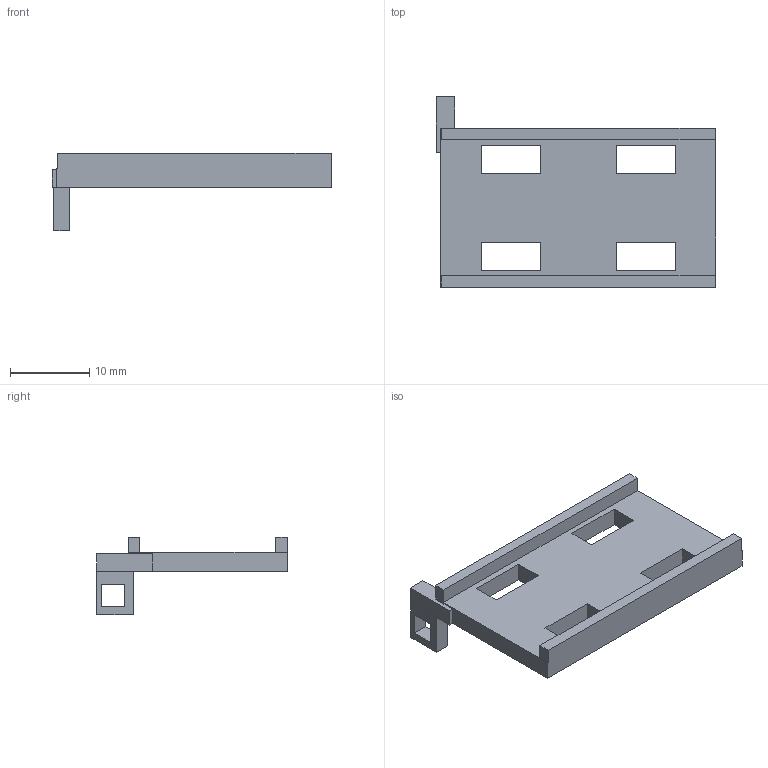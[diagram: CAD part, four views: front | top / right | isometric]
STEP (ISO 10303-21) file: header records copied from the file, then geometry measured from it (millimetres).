
FILE_DESCRIPTION(('Open CASCADE Model'),'2;1');
FILE_NAME('Open CASCADE Shape Model','2026-11-20T15:36:05',('Author'),( 'Open CASCADE'),'Open CASCADE STEP processor 8.0','Open CASCADE 8.0' ,'Unknown');
FILE_SCHEMA(('AUTOMOTIVE_DESIGN { 1 0 10303 214 1 1 1 1 }'));
Length unit declared in the file: millimetre
Products named in the file (1): Open CASCADE STEP translator 8.0 9
Bounding box: 35.15 x 24 x 9.8 mm (x, y, z)
Volume: 1653.6 mm3; surface area: 2041.1 mm2
Topology: 1 solids, 1 shells, 43 faces, 123 edges, 82 vertices
Faces by surface type: plane 43
Entity records: 2921 total; most frequent: CARTESIAN_POINT 580, DIRECTION 372, LINE 284, VECTOR 284, ORIENTED_EDGE 246, PCURVE 246, DEFINITIONAL_REPRESENTATION 246, EDGE_CURVE 123
